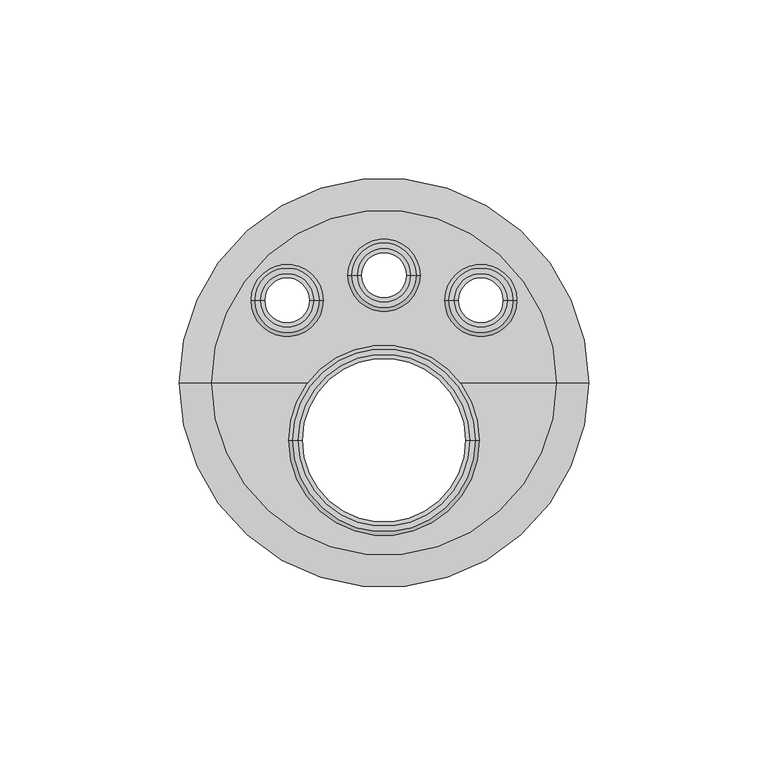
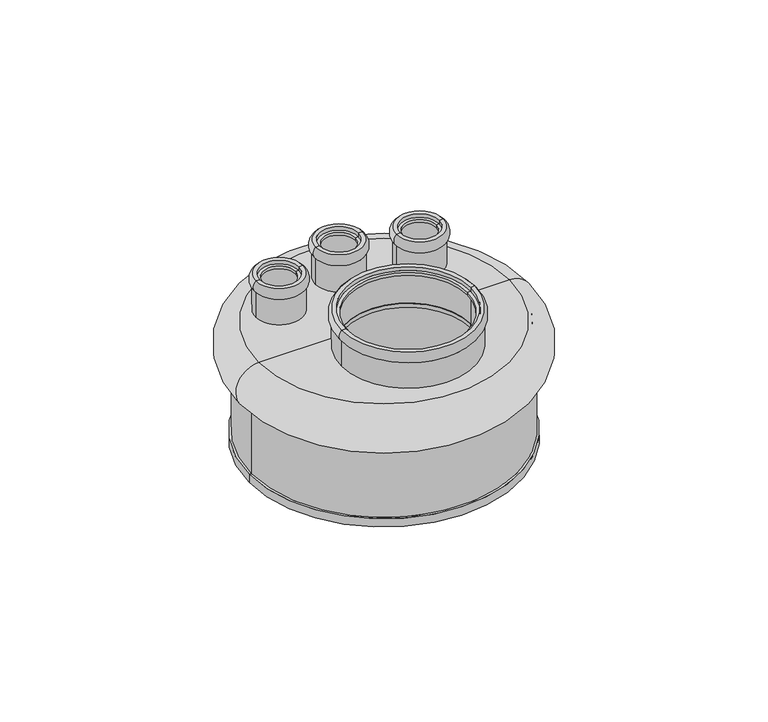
"""IFC4 building model written with IfcOpenShell, lengths in millimetres: valve geometry, Astra - Vedante Flexível Quádruplo - CFQ : Astra - Vedante Flexível Quádruplo - CFQ."""

from ifc_helpers import new_model, si_unit, point, frame, origin, origin_with_axes, place, context, project, spatial, polyline, circle_curve, ellipse_curve, trimmed, source, transform, mapped, element, save
from ifc_brep_helpers import plane_surface, cylinder_surface, revolved_surface, advanced_brep


def valve_a71acad6(model_context):
    return source(origin(), model_context, "Body", "AdvancedBrep", [
        advanced_brep(
        [(-9.065, 30.0, 10.5771317), (9.065, 30.0, 10.5771317), (9.065, 30.0, 0.0), (-9.065, 30.0, 0.0), (-9.065, 30.0, 15.0), (9.065, 30.0, 15.0), (-7.5, 30.0, 15.0), (7.5, 30.0, 15.0), (-7.5, 30.0, 13.5), (7.5, 30.0, 13.5), (-6.3, 30.0, 13.5), (6.3, 30.0, 13.5), (-6.3, 30.0, 12.35), (6.3, 30.0, 12.35), (-7.5, 30.0, 12.35), (7.5, 30.0, 12.35), (-7.5, 30.0, 0.0), (7.5, 30.0, 0.0)],
        [
            (0, 1, circle_curve(frame((0.0, 30.0, 10.5771317), z_axis=(0.0, 0.0, -1.0), x_axis=(1.0, 0.0, 0.0)), 9.065)),
            (1, 2),
            (2, 3, circle_curve(frame((0.0, 30.0, 0.0), z_axis=(0.0, 0.0, 1.0), x_axis=(1.0, 0.0, 0.0)), 9.065)),
            (3, 0),
            (1, 0, circle_curve(frame((0.0, 30.0, 10.5771317), z_axis=(0.0, 0.0, -1.0), x_axis=(1.0, 0.0, 0.0)), 9.065)),
            (3, 2, circle_curve(frame((0.0, 30.0, 0.0), z_axis=(0.0, 0.0, 1.0), x_axis=(1.0, 0.0, 0.0)), 9.065)),
            (4, 5, circle_curve(frame((0.0, 30.0, 15.0), z_axis=(0.0, 0.0, -1.0), x_axis=(1.0, 0.0, 0.0)), 9.065)),
            (5, 1, circle_curve(frame((7.120326, 30.0, 12.7885658), z_axis=(0.0, 1.0, 0.0), x_axis=(1.0, 0.0, 0.0)), 2.9448596)),
            (0, 4, circle_curve(frame((-7.120326, 30.0, 12.7885658), z_axis=(0.0, 1.0, 0.0), x_axis=(-1.0, 0.0, 0.0)), 2.9448596)),
            (5, 4, circle_curve(frame((0.0, 30.0, 15.0), z_axis=(0.0, 0.0, -1.0), x_axis=(1.0, 0.0, 0.0)), 9.065)),
            (6, 7, circle_curve(frame((0.0, 30.0, 15.0), z_axis=(0.0, 0.0, -1.0), x_axis=(1.0, 0.0, 0.0)), 7.5)),
            (7, 5),
            (4, 6),
            (7, 6, circle_curve(frame((0.0, 30.0, 15.0), z_axis=(0.0, 0.0, -1.0), x_axis=(1.0, 0.0, 0.0)), 7.5)),
            (8, 9, circle_curve(frame((0.0, 30.0, 13.5), z_axis=(0.0, 0.0, -1.0), x_axis=(1.0, 0.0, 0.0)), 7.5)),
            (9, 7),
            (6, 8),
            (9, 8, circle_curve(frame((0.0, 30.0, 13.5), z_axis=(0.0, 0.0, -1.0), x_axis=(1.0, 0.0, 0.0)), 7.5)),
            (10, 11, circle_curve(frame((0.0, 30.0, 13.5), z_axis=(0.0, 0.0, -1.0), x_axis=(1.0, 0.0, 0.0)), 6.3)),
            (11, 9),
            (8, 10),
            (11, 10, circle_curve(frame((0.0, 30.0, 13.5), z_axis=(0.0, 0.0, -1.0), x_axis=(1.0, 0.0, 0.0)), 6.3)),
            (12, 13, circle_curve(frame((0.0, 30.0, 12.35), z_axis=(0.0, 0.0, -1.0), x_axis=(1.0, 0.0, 0.0)), 6.3)),
            (13, 11),
            (10, 12),
            (13, 12, circle_curve(frame((0.0, 30.0, 12.35), z_axis=(0.0, 0.0, -1.0), x_axis=(1.0, 0.0, 0.0)), 6.3)),
            (14, 15, circle_curve(frame((0.0, 30.0, 12.35), z_axis=(0.0, 0.0, -1.0), x_axis=(1.0, 0.0, 0.0)), 7.5)),
            (15, 13),
            (12, 14),
            (15, 14, circle_curve(frame((0.0, 30.0, 12.35), z_axis=(0.0, 0.0, -1.0), x_axis=(1.0, 0.0, 0.0)), 7.5)),
            (16, 17, circle_curve(frame((0.0, 30.0, 0.0), z_axis=(0.0, 0.0, -1.0), x_axis=(1.0, 0.0, 0.0)), 7.5)),
            (17, 15),
            (14, 16),
            (17, 16, circle_curve(frame((0.0, 30.0, 0.0), z_axis=(0.0, 0.0, -1.0), x_axis=(1.0, 0.0, 0.0)), 7.5)),
            (2, 17),
            (16, 3),
        ],
        [
            cylinder_surface(frame((0.0, 30.0, 15.0), z_axis=(0.0, 0.0, 1.0), x_axis=(1.0, 0.0, 0.0)), 9.065),
            revolved_surface(trimmed(ellipse_curve(frame((7.120326, 30.0, 12.7885658), z_axis=(0.0, -1.0, 0.0), x_axis=(1.0, 0.0, 0.0)), 2.9448596, 2.9448596), [point((9.065, 30.0, 10.5771317))], [point((9.065, 30.0, 15.0))], True, "CARTESIAN"), (0.0, 30.0, 15.0), (0.0, 0.0, 1.0)),
            plane_surface(frame((0.0, 30.0, 15.0), z_axis=(0.0, 0.0, 1.0), x_axis=(1.0, 0.0, 0.0))),
            revolved_surface(polyline([(7.5, 30.0, 15.0), (7.5, 30.0, 13.5)]), (0.0, 30.0, 15.0), (0.0, 0.0, 1.0)),
            plane_surface(frame((0.0, 30.0, 13.5), z_axis=(0.0, 0.0, 1.0), x_axis=(1.0, 0.0, 0.0))),
            revolved_surface(polyline([(6.3, 30.0, 13.5), (6.3, 30.0, 12.35)]), (0.0, 30.0, 15.0), (0.0, 0.0, 1.0)),
            plane_surface(frame((0.0, 30.0, 12.35), z_axis=(0.0, 0.0, -1.0), x_axis=(1.0, 0.0, 0.0))),
            revolved_surface(polyline([(7.5, 30.0, 12.35), (7.5, 30.0, 0.0)]), (0.0, 30.0, 15.0), (0.0, 0.0, 1.0)),
            plane_surface(frame((0.0, 30.0, 0.0), z_axis=(0.0, 0.0, -1.0), x_axis=(1.0, 0.0, 0.0))),
        ],
        [
            (0, [[1, 2, 3, 4]]),
            (0, [[5, -4, 6, -2]]),
            (1, [[7, 8, -1, 9]]),
            (1, [[10, -9, -5, -8]]),
            (2, [[11, 12, -7, 13]]),
            (2, [[14, -13, -10, -12]]),
            (3, [[15, 16, -11, 17]]),
            (3, [[18, -17, -14, -16]]),
            (4, [[19, 20, -15, 21]]),
            (4, [[22, -21, -18, -20]]),
            (5, [[23, 24, -19, 25]]),
            (5, [[26, -25, -22, -24]]),
            (6, [[27, 28, -23, 29]]),
            (6, [[30, -29, -26, -28]]),
            (7, [[31, 32, -27, 33]]),
            (7, [[34, -33, -30, -32]]),
            (8, [[-3, 35, -31, 36]]),
            (8, [[-6, -36, -34, -35]]),
        ],
    ),
        advanced_brep(
        [(-34.5, 23.0, -1.5), (-34.5, 23.0, 0.0), (-19.5, 23.0, 0.0), (-19.5, 23.0, -1.5), (19.5, 23.0, -1.5), (19.5, 23.0, 0.0), (34.5, 23.0, 0.0), (34.5, 23.0, -1.5), (-24.0, -16.0, -1.5), (-24.0, -16.0, 0.0), (24.0, -16.0, 0.0), (24.0, -16.0, -1.5), (-17.8885438, 0.0, -1.5), (17.8885438, 0.0, -1.5), (17.8885438, 0.0, 0.0), (-17.8885438, 0.0, 0.0), (-7.5, 30.0, -1.5), (-7.5, 30.0, 0.0), (7.5, 30.0, 0.0), (7.5, 30.0, -1.5), (-51.8, 0.0, -47.4), (51.8, 0.0, -47.4), (49.5, 0.0, -47.4), (-49.5, 0.0, -47.4), (-51.8, 0.0, -44.1), (51.8, 0.0, -44.1), (-51.0, 0.0, -44.1), (51.0, 0.0, -44.1), (-51.0, 0.0, -17.4), (51.0, 0.0, -17.4), (-51.2675989, 0.0, -17.4), (51.2675989, 0.0, -17.4), (48.0365, 0.0, 0.0), (-48.0365, 0.0, 0.0), (-49.5, 0.0, -1.5), (49.5, 0.0, -1.5)],
        [
            (0, 1),
            (1, 2, circle_curve(frame((-27.0, 23.0, 0.0), z_axis=(0.0, 0.0, 1.0), x_axis=(1.0, 0.0, 0.0)), 7.5)),
            (2, 3),
            (3, 0, circle_curve(frame((-27.0, 23.0, -1.5), z_axis=(0.0, 0.0, -1.0), x_axis=(1.0, 0.0, 0.0)), 7.5)),
            (0, 3, circle_curve(frame((-27.0, 23.0, -1.5), z_axis=(0.0, 0.0, -1.0), x_axis=(1.0, 0.0, 0.0)), 7.5)),
            (2, 1, circle_curve(frame((-27.0, 23.0, 0.0), z_axis=(0.0, 0.0, 1.0), x_axis=(1.0, 0.0, 0.0)), 7.5)),
            (4, 5),
            (5, 6, circle_curve(frame((27.0, 23.0, 0.0), z_axis=(0.0, 0.0, 1.0), x_axis=(1.0, 0.0, 0.0)), 7.5)),
            (6, 7),
            (7, 4, circle_curve(frame((27.0, 23.0, -1.5), z_axis=(0.0, 0.0, -1.0), x_axis=(1.0, 0.0, 0.0)), 7.5)),
            (4, 7, circle_curve(frame((27.0, 23.0, -1.5), z_axis=(0.0, 0.0, -1.0), x_axis=(1.0, 0.0, 0.0)), 7.5)),
            (6, 5, circle_curve(frame((27.0, 23.0, 0.0), z_axis=(0.0, 0.0, 1.0), x_axis=(1.0, 0.0, 0.0)), 7.5)),
            (8, 9),
            (9, 10, circle_curve(frame((0.0, -16.0, 0.0), z_axis=(0.0, 0.0, 1.0), x_axis=(1.0, 0.0, 0.0)), 24.0)),
            (10, 11),
            (11, 8, circle_curve(frame((0.0, -16.0, -1.5), z_axis=(0.0, 0.0, -1.0), x_axis=(1.0, 0.0, 0.0)), 24.0)),
            (8, 12, circle_curve(frame((0.0, -16.0, -1.5), z_axis=(0.0, 0.0, -1.0), x_axis=(1.0, 0.0, 0.0)), 24.0)),
            (12, 13, circle_curve(frame((0.0, -16.0, -1.5), z_axis=(0.0, 0.0, -1.0), x_axis=(1.0, 0.0, 0.0)), 24.0)),
            (13, 11, circle_curve(frame((0.0, -16.0, -1.5), z_axis=(0.0, 0.0, -1.0), x_axis=(1.0, 0.0, 0.0)), 24.0)),
            (10, 14, circle_curve(frame((0.0, -16.0, 0.0), z_axis=(0.0, 0.0, 1.0), x_axis=(1.0, 0.0, 0.0)), 24.0)),
            (14, 15, circle_curve(frame((0.0, -16.0, 0.0), z_axis=(0.0, 0.0, 1.0), x_axis=(1.0, 0.0, 0.0)), 24.0)),
            (15, 9, circle_curve(frame((0.0, -16.0, 0.0), z_axis=(0.0, 0.0, 1.0), x_axis=(1.0, 0.0, 0.0)), 24.0)),
            (16, 17),
            (17, 18, circle_curve(frame((0.0, 30.0, 0.0), z_axis=(0.0, 0.0, 1.0), x_axis=(1.0, 0.0, 0.0)), 7.5)),
            (18, 19),
            (19, 16, circle_curve(frame((0.0, 30.0, -1.5), z_axis=(0.0, 0.0, -1.0), x_axis=(1.0, 0.0, 0.0)), 7.5)),
            (16, 19, circle_curve(frame((0.0, 30.0, -1.5), z_axis=(0.0, 0.0, -1.0), x_axis=(1.0, 0.0, 0.0)), 7.5)),
            (18, 17, circle_curve(frame((0.0, 30.0, 0.0), z_axis=(0.0, 0.0, 1.0), x_axis=(1.0, 0.0, 0.0)), 7.5)),
            (20, 21, circle_curve(frame((0.0, 0.0, -47.4), z_axis=(0.0, 0.0, -1.0), x_axis=(1.0, 0.0, 0.0)), 51.8)),
            (21, 22),
            (22, 23, circle_curve(frame((0.0, 0.0, -47.4), z_axis=(0.0, 0.0, 1.0), x_axis=(1.0, 0.0, 0.0)), 49.5)),
            (23, 20),
            (21, 20, circle_curve(frame((0.0, 0.0, -47.4), z_axis=(0.0, 0.0, -1.0), x_axis=(1.0, 0.0, 0.0)), 51.8)),
            (23, 22, circle_curve(frame((0.0, 0.0, -47.4), z_axis=(0.0, 0.0, 1.0), x_axis=(1.0, 0.0, 0.0)), 49.5)),
            (20, 24),
            (24, 25, circle_curve(frame((0.0, 0.0, -44.1), z_axis=(0.0, 0.0, -1.0), x_axis=(1.0, 0.0, 0.0)), 51.8)),
            (25, 21),
            (25, 24, circle_curve(frame((0.0, 0.0, -44.1), z_axis=(0.0, 0.0, -1.0), x_axis=(1.0, 0.0, 0.0)), 51.8)),
            (24, 26),
            (26, 27, circle_curve(frame((0.0, 0.0, -44.1), z_axis=(0.0, 0.0, -1.0), x_axis=(1.0, 0.0, 0.0)), 51.0)),
            (27, 25),
            (27, 26, circle_curve(frame((0.0, 0.0, -44.1), z_axis=(0.0, 0.0, -1.0), x_axis=(1.0, 0.0, 0.0)), 51.0)),
            (26, 28),
            (28, 29, circle_curve(frame((0.0, 0.0, -17.4), z_axis=(0.0, 0.0, -1.0), x_axis=(1.0, 0.0, 0.0)), 51.0)),
            (29, 27),
            (29, 28, circle_curve(frame((0.0, 0.0, -17.4), z_axis=(0.0, 0.0, -1.0), x_axis=(1.0, 0.0, 0.0)), 51.0)),
            (28, 30),
            (30, 31, circle_curve(frame((0.0, 0.0, -17.4), z_axis=(0.0, 0.0, -1.0), x_axis=(1.0, 0.0, 0.0)), 51.2675989)),
            (31, 29),
            (31, 30, circle_curve(frame((0.0, 0.0, -17.4), z_axis=(0.0, 0.0, -1.0), x_axis=(1.0, 0.0, 0.0)), 51.2675989)),
            (14, 32),
            (32, 33, circle_curve(origin_with_axes(), 48.0365)),
            (33, 15),
            (33, 32, circle_curve(origin_with_axes(), 48.0365)),
            (34, 35, circle_curve(frame((0.0, 0.0, -1.5), z_axis=(0.0, 0.0, -1.0), x_axis=(1.0, 0.0, 0.0)), 49.5)),
            (35, 13),
            (12, 34),
            (35, 34, circle_curve(frame((0.0, 0.0, -1.5), z_axis=(0.0, 0.0, -1.0), x_axis=(1.0, 0.0, 0.0)), 49.5)),
            (22, 35),
            (34, 23),
            (30, 33, circle_curve(frame((-48.0365, 0.0, -9.0), z_axis=(0.0, 1.0, 0.0), x_axis=(-1.0, 0.0, 0.0)), 9.0)),
            (32, 31, circle_curve(frame((48.0365, 0.0, -9.0), z_axis=(0.0, 1.0, 0.0), x_axis=(1.0, 0.0, 0.0)), 9.0)),
        ],
        [
            revolved_surface(polyline([(-19.5, 23.0, 0.0), (-19.5, 23.0, -1.5)]), (-27.0, 23.0, -1.7), (0.0, 0.0, 1.0)),
            revolved_surface(polyline([(34.5, 23.0, 0.0), (34.5, 23.0, -1.5)]), (27.0, 23.0, 0.0), (0.0, 0.0, 1.0)),
            revolved_surface(polyline([(24.0, -16.0, 0.0), (24.0, -16.0, -1.5)]), (0.0, -16.0, 0.0), (0.0, 0.0, 1.0)),
            revolved_surface(polyline([(7.5, 30.0, 0.0), (7.5, 30.0, -1.5)]), (0.0, 30.0, 0.0), (0.0, 0.0, 1.0)),
            plane_surface(frame((0.0, 0.0, -47.4), z_axis=(0.0, 0.0, -1.0), x_axis=(1.0, 0.0, 0.0))),
            cylinder_surface(origin_with_axes(), 51.8),
            plane_surface(frame((0.0, 0.0, -44.1), z_axis=(0.0, 0.0, 1.0), x_axis=(1.0, 0.0, 0.0))),
            cylinder_surface(origin_with_axes(), 51.0),
            plane_surface(frame((0.0, 0.0, -17.4), z_axis=(0.0, 0.0, -1.0), x_axis=(1.0, 0.0, 0.0))),
            plane_surface(origin_with_axes()),
            plane_surface(frame((0.0, 0.0, -1.5), z_axis=(0.0, 0.0, -1.0), x_axis=(1.0, 0.0, 0.0))),
            revolved_surface(polyline([(49.5, 0.0, -1.5), (49.5, 0.0, -47.4)]), (0.0, 0.0, 0.0), (0.0, 0.0, 1.0)),
            revolved_surface(trimmed(ellipse_curve(frame((48.0365, 0.0, -9.0), z_axis=(0.0, -1.0, 0.0), x_axis=(1.0, 0.0, 0.0)), 9.0, 9.0), [point((51.2675989, 0.0, -17.4))], [point((48.0365, 0.0, 0.0))], True, "CARTESIAN"), (0.0, 0.0, 0.0), (0.0, 0.0, 1.0)),
        ],
        [
            (0, [[1, 2, 3, 4]]),
            (0, [[-1, 5, -3, 6]]),
            (1, [[7, 8, 9, 10]]),
            (1, [[-7, 11, -9, 12]]),
            (2, [[13, 14, 15, 16]]),
            (2, [[-13, 17, 18, 19, -15, 20, 21, 22]]),
            (3, [[23, 24, 25, 26]]),
            (3, [[-23, 27, -25, 28]]),
            (4, [[29, 30, 31, 32]]),
            (4, [[-30, 33, -32, 34]]),
            (5, [[-29, 35, 36, 37]]),
            (5, [[-33, -37, 38, -35]]),
            (6, [[-36, 39, 40, 41]]),
            (6, [[-38, -41, 42, -39]]),
            (7, [[-40, 43, 44, 45]]),
            (7, [[-42, -45, 46, -43]]),
            (8, [[-44, 47, 48, 49]]),
            (8, [[-46, -49, 50, -47]]),
            (9, [[-21, 51, 52, 53], [-2, -6], [-8, -12], [-24, -28]]),
            (9, [[-14, -22, -53, 54, -51, -20]]),
            (10, [[55, 56, -18, 57], [-4, -5], [-10, -11], [-26, -27]]),
            (10, [[58, -57, -17, -16, -19, -56]]),
            (11, [[-31, 59, -55, 60]]),
            (11, [[-34, -60, -58, -59]]),
            (12, [[61, -52, 62, -48]]),
            (12, [[-61, -50, -62, -54]]),
        ],
    ),
        advanced_brep(
        [(-25.565, -16.0, 10.5771317), (25.565, -16.0, 10.5771317), (25.565, -16.0, 0.0), (-25.565, -16.0, 0.0), (-25.565, -16.0, 15.0), (25.565, -16.0, 15.0), (-24.0, -16.0, 15.0), (24.0, -16.0, 15.0), (-24.0, -16.0, 13.5), (24.0, -16.0, 13.5), (-22.8, -16.0, 13.5), (22.8, -16.0, 13.5), (-22.8, -16.0, 12.35), (22.8, -16.0, 12.35), (-24.0, -16.0, 12.35), (24.0, -16.0, 12.35), (-24.0, -16.0, 0.0), (24.0, -16.0, 0.0)],
        [
            (0, 1, circle_curve(frame((0.0, -16.0, 10.5771317), z_axis=(0.0, 0.0, -1.0), x_axis=(1.0, 0.0, 0.0)), 25.565)),
            (1, 2),
            (2, 3, circle_curve(frame((0.0, -16.0, 0.0), z_axis=(0.0, 0.0, 1.0), x_axis=(1.0, 0.0, 0.0)), 25.565)),
            (3, 0),
            (1, 0, circle_curve(frame((0.0, -16.0, 10.5771317), z_axis=(0.0, 0.0, -1.0), x_axis=(1.0, 0.0, 0.0)), 25.565)),
            (3, 2, circle_curve(frame((0.0, -16.0, 0.0), z_axis=(0.0, 0.0, 1.0), x_axis=(1.0, 0.0, 0.0)), 25.565)),
            (4, 5, circle_curve(frame((0.0, -16.0, 15.0), z_axis=(0.0, 0.0, -1.0), x_axis=(1.0, 0.0, 0.0)), 25.565)),
            (5, 1, circle_curve(frame((23.620326, -16.0, 12.7885658), z_axis=(0.0, 1.0, 0.0), x_axis=(1.0, 0.0, 0.0)), 2.9448596)),
            (0, 4, circle_curve(frame((-23.620326, -16.0, 12.7885658), z_axis=(0.0, 1.0, 0.0), x_axis=(-1.0, 0.0, 0.0)), 2.9448596)),
            (5, 4, circle_curve(frame((0.0, -16.0, 15.0), z_axis=(0.0, 0.0, -1.0), x_axis=(1.0, 0.0, 0.0)), 25.565)),
            (6, 7, circle_curve(frame((0.0, -16.0, 15.0), z_axis=(0.0, 0.0, -1.0), x_axis=(1.0, 0.0, 0.0)), 24.0)),
            (7, 5),
            (4, 6),
            (7, 6, circle_curve(frame((0.0, -16.0, 15.0), z_axis=(0.0, 0.0, -1.0), x_axis=(1.0, 0.0, 0.0)), 24.0)),
            (8, 9, circle_curve(frame((0.0, -16.0, 13.5), z_axis=(0.0, 0.0, -1.0), x_axis=(1.0, 0.0, 0.0)), 24.0)),
            (9, 7),
            (6, 8),
            (9, 8, circle_curve(frame((0.0, -16.0, 13.5), z_axis=(0.0, 0.0, -1.0), x_axis=(1.0, 0.0, 0.0)), 24.0)),
            (10, 11, circle_curve(frame((0.0, -16.0, 13.5), z_axis=(0.0, 0.0, -1.0), x_axis=(1.0, 0.0, 0.0)), 22.8)),
            (11, 9),
            (8, 10),
            (11, 10, circle_curve(frame((0.0, -16.0, 13.5), z_axis=(0.0, 0.0, -1.0), x_axis=(1.0, 0.0, 0.0)), 22.8)),
            (12, 13, circle_curve(frame((0.0, -16.0, 12.35), z_axis=(0.0, 0.0, -1.0), x_axis=(1.0, 0.0, 0.0)), 22.8)),
            (13, 11),
            (10, 12),
            (13, 12, circle_curve(frame((0.0, -16.0, 12.35), z_axis=(0.0, 0.0, -1.0), x_axis=(1.0, 0.0, 0.0)), 22.8)),
            (14, 15, circle_curve(frame((0.0, -16.0, 12.35), z_axis=(0.0, 0.0, -1.0), x_axis=(1.0, 0.0, 0.0)), 24.0)),
            (15, 13),
            (12, 14),
            (15, 14, circle_curve(frame((0.0, -16.0, 12.35), z_axis=(0.0, 0.0, -1.0), x_axis=(1.0, 0.0, 0.0)), 24.0)),
            (16, 17, circle_curve(frame((0.0, -16.0, 0.0), z_axis=(0.0, 0.0, -1.0), x_axis=(1.0, 0.0, 0.0)), 24.0)),
            (17, 15),
            (14, 16),
            (17, 16, circle_curve(frame((0.0, -16.0, 0.0), z_axis=(0.0, 0.0, -1.0), x_axis=(1.0, 0.0, 0.0)), 24.0)),
            (2, 17),
            (16, 3),
        ],
        [
            cylinder_surface(frame((0.0, -16.0, 15.0), z_axis=(0.0, 0.0, 1.0), x_axis=(1.0, 0.0, 0.0)), 25.565),
            revolved_surface(trimmed(ellipse_curve(frame((23.620326, -16.0, 12.7885658), z_axis=(0.0, -1.0, 0.0), x_axis=(1.0, 0.0, 0.0)), 2.9448596, 2.9448596), [point((25.565, -16.0, 10.5771317))], [point((25.565, -16.0, 15.0))], True, "CARTESIAN"), (0.0, -16.0, 15.0), (0.0, 0.0, 1.0)),
            plane_surface(frame((0.0, -16.0, 15.0), z_axis=(0.0, 0.0, 1.0), x_axis=(1.0, 0.0, 0.0))),
            revolved_surface(polyline([(24.0, -16.0, 15.0), (24.0, -16.0, 13.5)]), (0.0, -16.0, 15.0), (0.0, 0.0, 1.0)),
            plane_surface(frame((0.0, -16.0, 13.5), z_axis=(0.0, 0.0, 1.0), x_axis=(1.0, 0.0, 0.0))),
            revolved_surface(polyline([(22.8, -16.0, 13.5), (22.8, -16.0, 12.35)]), (0.0, -16.0, 15.0), (0.0, 0.0, 1.0)),
            plane_surface(frame((0.0, -16.0, 12.35), z_axis=(0.0, 0.0, -1.0), x_axis=(1.0, 0.0, 0.0))),
            revolved_surface(polyline([(24.0, -16.0, 12.35), (24.0, -16.0, 0.0)]), (0.0, -16.0, 15.0), (0.0, 0.0, 1.0)),
            plane_surface(frame((0.0, -16.0, 0.0), z_axis=(0.0, 0.0, -1.0), x_axis=(1.0, 0.0, 0.0))),
        ],
        [
            (0, [[1, 2, 3, 4]]),
            (0, [[5, -4, 6, -2]]),
            (1, [[7, 8, -1, 9]]),
            (1, [[10, -9, -5, -8]]),
            (2, [[11, 12, -7, 13]]),
            (2, [[14, -13, -10, -12]]),
            (3, [[15, 16, -11, 17]]),
            (3, [[18, -17, -14, -16]]),
            (4, [[19, 20, -15, 21]]),
            (4, [[22, -21, -18, -20]]),
            (5, [[23, 24, -19, 25]]),
            (5, [[26, -25, -22, -24]]),
            (6, [[27, 28, -23, 29]]),
            (6, [[30, -29, -26, -28]]),
            (7, [[31, 32, -27, 33]]),
            (7, [[34, -33, -30, -32]]),
            (8, [[-3, 35, -31, 36]]),
            (8, [[-6, -36, -34, -35]]),
        ],
    ),
        advanced_brep(
        [(17.935, 23.0, 10.5771317), (36.065, 23.0, 10.5771317), (36.065, 23.0, 0.0), (17.935, 23.0, 0.0), (17.935, 23.0, 15.0), (36.065, 23.0, 15.0), (19.5, 23.0, 15.0), (34.5, 23.0, 15.0), (19.5, 23.0, 13.5), (34.5, 23.0, 13.5), (20.7, 23.0, 13.5), (33.3, 23.0, 13.5), (20.7, 23.0, 12.35), (33.3, 23.0, 12.35), (19.5, 23.0, 12.35), (34.5, 23.0, 12.35), (19.5, 23.0, 0.0), (34.5, 23.0, 0.0)],
        [
            (0, 1, circle_curve(frame((27.0, 23.0, 10.5771317), z_axis=(0.0, 0.0, -1.0), x_axis=(1.0, 0.0, 0.0)), 9.065)),
            (1, 2),
            (2, 3, circle_curve(frame((27.0, 23.0, 0.0), z_axis=(0.0, 0.0, 1.0), x_axis=(1.0, 0.0, 0.0)), 9.065)),
            (3, 0),
            (1, 0, circle_curve(frame((27.0, 23.0, 10.5771317), z_axis=(0.0, 0.0, -1.0), x_axis=(1.0, 0.0, 0.0)), 9.065)),
            (3, 2, circle_curve(frame((27.0, 23.0, 0.0), z_axis=(0.0, 0.0, 1.0), x_axis=(1.0, 0.0, 0.0)), 9.065)),
            (4, 5, circle_curve(frame((27.0, 23.0, 15.0), z_axis=(0.0, 0.0, -1.0), x_axis=(1.0, 0.0, 0.0)), 9.065)),
            (5, 1, circle_curve(frame((34.120326, 23.0, 12.7885658), z_axis=(0.0, 1.0, 0.0), x_axis=(1.0, 0.0, 0.0)), 2.9448596)),
            (0, 4, circle_curve(frame((19.879674, 23.0, 12.7885658), z_axis=(0.0, 1.0, 0.0), x_axis=(-1.0, 0.0, 0.0)), 2.9448596)),
            (5, 4, circle_curve(frame((27.0, 23.0, 15.0), z_axis=(0.0, 0.0, -1.0), x_axis=(1.0, 0.0, 0.0)), 9.065)),
            (6, 7, circle_curve(frame((27.0, 23.0, 15.0), z_axis=(0.0, 0.0, -1.0), x_axis=(1.0, 0.0, 0.0)), 7.5)),
            (7, 5),
            (4, 6),
            (7, 6, circle_curve(frame((27.0, 23.0, 15.0), z_axis=(0.0, 0.0, -1.0), x_axis=(1.0, 0.0, 0.0)), 7.5)),
            (8, 9, circle_curve(frame((27.0, 23.0, 13.5), z_axis=(0.0, 0.0, -1.0), x_axis=(1.0, 0.0, 0.0)), 7.5)),
            (9, 7),
            (6, 8),
            (9, 8, circle_curve(frame((27.0, 23.0, 13.5), z_axis=(0.0, 0.0, -1.0), x_axis=(1.0, 0.0, 0.0)), 7.5)),
            (10, 11, circle_curve(frame((27.0, 23.0, 13.5), z_axis=(0.0, 0.0, -1.0), x_axis=(1.0, 0.0, 0.0)), 6.3)),
            (11, 9),
            (8, 10),
            (11, 10, circle_curve(frame((27.0, 23.0, 13.5), z_axis=(0.0, 0.0, -1.0), x_axis=(1.0, 0.0, 0.0)), 6.3)),
            (12, 13, circle_curve(frame((27.0, 23.0, 12.35), z_axis=(0.0, 0.0, -1.0), x_axis=(1.0, 0.0, 0.0)), 6.3)),
            (13, 11),
            (10, 12),
            (13, 12, circle_curve(frame((27.0, 23.0, 12.35), z_axis=(0.0, 0.0, -1.0), x_axis=(1.0, 0.0, 0.0)), 6.3)),
            (14, 15, circle_curve(frame((27.0, 23.0, 12.35), z_axis=(0.0, 0.0, -1.0), x_axis=(1.0, 0.0, 0.0)), 7.5)),
            (15, 13),
            (12, 14),
            (15, 14, circle_curve(frame((27.0, 23.0, 12.35), z_axis=(0.0, 0.0, -1.0), x_axis=(1.0, 0.0, 0.0)), 7.5)),
            (16, 17, circle_curve(frame((27.0, 23.0, 0.0), z_axis=(0.0, 0.0, -1.0), x_axis=(1.0, 0.0, 0.0)), 7.5)),
            (17, 15),
            (14, 16),
            (17, 16, circle_curve(frame((27.0, 23.0, 0.0), z_axis=(0.0, 0.0, -1.0), x_axis=(1.0, 0.0, 0.0)), 7.5)),
            (2, 17),
            (16, 3),
        ],
        [
            cylinder_surface(frame((27.0, 23.0, 15.0), z_axis=(0.0, 0.0, 1.0), x_axis=(1.0, 0.0, 0.0)), 9.065),
            revolved_surface(trimmed(ellipse_curve(frame((34.120326, 23.0, 12.7885658), z_axis=(0.0, -1.0, 0.0), x_axis=(1.0, 0.0, 0.0)), 2.9448596, 2.9448596), [point((36.065, 23.0, 10.5771317))], [point((36.065, 23.0, 15.0))], True, "CARTESIAN"), (27.0, 23.0, 15.0), (0.0, 0.0, 1.0)),
            plane_surface(frame((27.0, 23.0, 15.0), z_axis=(0.0, 0.0, 1.0), x_axis=(1.0, 0.0, 0.0))),
            revolved_surface(polyline([(34.5, 23.0, 15.0), (34.5, 23.0, 13.5)]), (27.0, 23.0, 15.0), (0.0, 0.0, 1.0)),
            plane_surface(frame((27.0, 23.0, 13.5), z_axis=(0.0, 0.0, 1.0), x_axis=(1.0, 0.0, 0.0))),
            revolved_surface(polyline([(33.3, 23.0, 13.5), (33.3, 23.0, 12.35)]), (27.0, 23.0, 15.0), (0.0, 0.0, 1.0)),
            plane_surface(frame((27.0, 23.0, 12.35), z_axis=(0.0, 0.0, -1.0), x_axis=(1.0, 0.0, 0.0))),
            revolved_surface(polyline([(34.5, 23.0, 12.35), (34.5, 23.0, 0.0)]), (27.0, 23.0, 15.0), (0.0, 0.0, 1.0)),
            plane_surface(frame((27.0, 23.0, 0.0), z_axis=(0.0, 0.0, -1.0), x_axis=(1.0, 0.0, 0.0))),
        ],
        [
            (0, [[1, 2, 3, 4]]),
            (0, [[5, -4, 6, -2]]),
            (1, [[7, 8, -1, 9]]),
            (1, [[10, -9, -5, -8]]),
            (2, [[11, 12, -7, 13]]),
            (2, [[14, -13, -10, -12]]),
            (3, [[15, 16, -11, 17]]),
            (3, [[18, -17, -14, -16]]),
            (4, [[19, 20, -15, 21]]),
            (4, [[22, -21, -18, -20]]),
            (5, [[23, 24, -19, 25]]),
            (5, [[26, -25, -22, -24]]),
            (6, [[27, 28, -23, 29]]),
            (6, [[30, -29, -26, -28]]),
            (7, [[31, 32, -27, 33]]),
            (7, [[34, -33, -30, -32]]),
            (8, [[-3, 35, -31, 36]]),
            (8, [[-6, -36, -34, -35]]),
        ],
    ),
        advanced_brep(
        [(-36.065, 23.0, 10.5771317), (-17.935, 23.0, 10.5771317), (-17.935, 23.0, 0.0), (-36.065, 23.0, 0.0), (-36.065, 23.0, 15.0), (-17.935, 23.0, 15.0), (-34.5, 23.0, 15.0), (-19.5, 23.0, 15.0), (-34.5, 23.0, 13.5), (-19.5, 23.0, 13.5), (-33.3, 23.0, 13.5), (-20.7, 23.0, 13.5), (-33.3, 23.0, 12.35), (-20.7, 23.0, 12.35), (-34.5, 23.0, 12.35), (-19.5, 23.0, 12.35), (-34.5, 23.0, 0.0), (-19.5, 23.0, 0.0)],
        [
            (0, 1, circle_curve(frame((-27.0, 23.0, 10.5771317), z_axis=(0.0, 0.0, -1.0), x_axis=(1.0, 0.0, 0.0)), 9.065)),
            (1, 2),
            (2, 3, circle_curve(frame((-27.0, 23.0, 0.0), z_axis=(0.0, 0.0, 1.0), x_axis=(1.0, 0.0, 0.0)), 9.065)),
            (3, 0),
            (1, 0, circle_curve(frame((-27.0, 23.0, 10.5771317), z_axis=(0.0, 0.0, -1.0), x_axis=(1.0, 0.0, 0.0)), 9.065)),
            (3, 2, circle_curve(frame((-27.0, 23.0, 0.0), z_axis=(0.0, 0.0, 1.0), x_axis=(1.0, 0.0, 0.0)), 9.065)),
            (4, 5, circle_curve(frame((-27.0, 23.0, 15.0), z_axis=(0.0, 0.0, -1.0), x_axis=(1.0, 0.0, 0.0)), 9.065)),
            (5, 1, circle_curve(frame((-19.879674, 23.0, 12.7885658), z_axis=(0.0, 1.0, 0.0), x_axis=(1.0, 0.0, 0.0)), 2.9448596)),
            (0, 4, circle_curve(frame((-34.120326, 23.0, 12.7885658), z_axis=(0.0, 1.0, 0.0), x_axis=(-1.0, 0.0, 0.0)), 2.9448596)),
            (5, 4, circle_curve(frame((-27.0, 23.0, 15.0), z_axis=(0.0, 0.0, -1.0), x_axis=(1.0, 0.0, 0.0)), 9.065)),
            (6, 7, circle_curve(frame((-27.0, 23.0, 15.0), z_axis=(0.0, 0.0, -1.0), x_axis=(1.0, 0.0, 0.0)), 7.5)),
            (7, 5),
            (4, 6),
            (7, 6, circle_curve(frame((-27.0, 23.0, 15.0), z_axis=(0.0, 0.0, -1.0), x_axis=(1.0, 0.0, 0.0)), 7.5)),
            (8, 9, circle_curve(frame((-27.0, 23.0, 13.5), z_axis=(0.0, 0.0, -1.0), x_axis=(1.0, 0.0, 0.0)), 7.5)),
            (9, 7),
            (6, 8),
            (9, 8, circle_curve(frame((-27.0, 23.0, 13.5), z_axis=(0.0, 0.0, -1.0), x_axis=(1.0, 0.0, 0.0)), 7.5)),
            (10, 11, circle_curve(frame((-27.0, 23.0, 13.5), z_axis=(0.0, 0.0, -1.0), x_axis=(1.0, 0.0, 0.0)), 6.3)),
            (11, 9),
            (8, 10),
            (11, 10, circle_curve(frame((-27.0, 23.0, 13.5), z_axis=(0.0, 0.0, -1.0), x_axis=(1.0, 0.0, 0.0)), 6.3)),
            (12, 13, circle_curve(frame((-27.0, 23.0, 12.35), z_axis=(0.0, 0.0, -1.0), x_axis=(1.0, 0.0, 0.0)), 6.3)),
            (13, 11),
            (10, 12),
            (13, 12, circle_curve(frame((-27.0, 23.0, 12.35), z_axis=(0.0, 0.0, -1.0), x_axis=(1.0, 0.0, 0.0)), 6.3)),
            (14, 15, circle_curve(frame((-27.0, 23.0, 12.35), z_axis=(0.0, 0.0, -1.0), x_axis=(1.0, 0.0, 0.0)), 7.5)),
            (15, 13),
            (12, 14),
            (15, 14, circle_curve(frame((-27.0, 23.0, 12.35), z_axis=(0.0, 0.0, -1.0), x_axis=(1.0, 0.0, 0.0)), 7.5)),
            (16, 17, circle_curve(frame((-27.0, 23.0, 0.0), z_axis=(0.0, 0.0, -1.0), x_axis=(1.0, 0.0, 0.0)), 7.5)),
            (17, 15),
            (14, 16),
            (17, 16, circle_curve(frame((-27.0, 23.0, 0.0), z_axis=(0.0, 0.0, -1.0), x_axis=(1.0, 0.0, 0.0)), 7.5)),
            (2, 17),
            (16, 3),
        ],
        [
            cylinder_surface(frame((-27.0, 23.0, 15.0), z_axis=(0.0, 0.0, 1.0), x_axis=(1.0, 0.0, 0.0)), 9.065),
            revolved_surface(trimmed(ellipse_curve(frame((-19.879674, 23.0, 12.7885658), z_axis=(0.0, -1.0, 0.0), x_axis=(1.0, 0.0, 0.0)), 2.9448596, 2.9448596), [point((-17.935, 23.0, 10.5771317))], [point((-17.935, 23.0, 15.0))], True, "CARTESIAN"), (-27.0, 23.0, 15.0), (0.0, 0.0, 1.0)),
            plane_surface(frame((-27.0, 23.0, 15.0), z_axis=(0.0, 0.0, 1.0), x_axis=(1.0, 0.0, 0.0))),
            revolved_surface(polyline([(-19.5, 23.0, 15.0), (-19.5, 23.0, 13.5)]), (-27.0, 23.0, 15.0), (0.0, 0.0, 1.0)),
            plane_surface(frame((-27.0, 23.0, 13.5), z_axis=(0.0, 0.0, 1.0), x_axis=(1.0, 0.0, 0.0))),
            revolved_surface(polyline([(-20.7, 23.0, 13.5), (-20.7, 23.0, 12.35)]), (-27.0, 23.0, 15.0), (0.0, 0.0, 1.0)),
            plane_surface(frame((-27.0, 23.0, 12.35), z_axis=(0.0, 0.0, -1.0), x_axis=(1.0, 0.0, 0.0))),
            revolved_surface(polyline([(-19.5, 23.0, 12.35), (-19.5, 23.0, 0.0)]), (-27.0, 23.0, 15.0), (0.0, 0.0, 1.0)),
            plane_surface(frame((-27.0, 23.0, 0.0), z_axis=(0.0, 0.0, -1.0), x_axis=(1.0, 0.0, 0.0))),
        ],
        [
            (0, [[1, 2, 3, 4]]),
            (0, [[5, -4, 6, -2]]),
            (1, [[7, 8, -1, 9]]),
            (1, [[10, -9, -5, -8]]),
            (2, [[11, 12, -7, 13]]),
            (2, [[14, -13, -10, -12]]),
            (3, [[15, 16, -11, 17]]),
            (3, [[18, -17, -14, -16]]),
            (4, [[19, 20, -15, 21]]),
            (4, [[22, -21, -18, -20]]),
            (5, [[23, 24, -19, 25]]),
            (5, [[26, -25, -22, -24]]),
            (6, [[27, 28, -23, 29]]),
            (6, [[30, -29, -26, -28]]),
            (7, [[31, 32, -27, 33]]),
            (7, [[34, -33, -30, -32]]),
            (8, [[-3, 35, -31, 36]]),
            (8, [[-6, -36, -34, -35]]),
        ],
    ),
    ])


if __name__ == "__main__":
    model = new_model("IFC4")
    model_context = context("Model", 3, world=origin())
    ifc_project = project(units=[si_unit("LENGTHUNIT", "METRE", prefix="MILLI")], contexts=[model_context])
    site = spatial("IfcSite", under=ifc_project)
    building = spatial("IfcBuilding", under=site)
    placement = place(None, origin())
    valve_shape = valve_a71acad6(model_context)
    element("IfcValve", 1, ObjectType="Astra - Vedante Flexível Quádruplo - CFQ : Astra - Vedante Flexível Quádruplo - CFQ", at=placement, inside=building, context=model_context, shape_type="MappedRepresentation", body=[
        mapped(valve_shape, transform((0.0, 0.0, 0.0), x_axis=(1.0, 0.0, 0.0), y_axis=(0.0, 1.0, 0.0), z_axis=(0.0, 0.0, 1.0))),
    ])
    save(model, "model.ifc")
